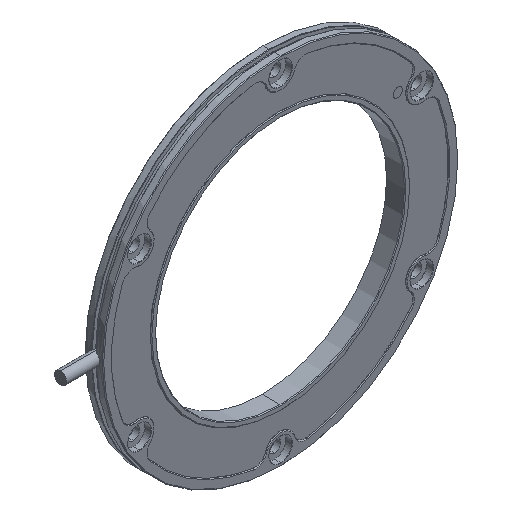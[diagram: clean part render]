
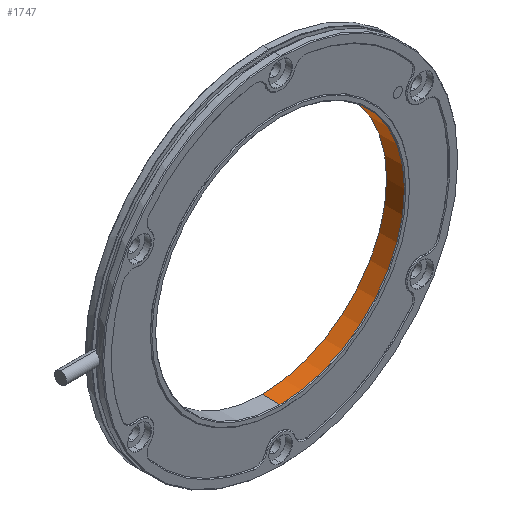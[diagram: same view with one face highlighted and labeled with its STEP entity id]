
A CAD part, isometric view. The second image highlights one B-rep face of the part: STEP entity #1747.
In plain terms, the highlighted cylindrical face has radius 33.6 mm (diameter 67.2 mm), a partial arc.
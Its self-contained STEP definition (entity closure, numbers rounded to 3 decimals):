
#157 = AXIS2_PLACEMENT_3D ( 'NONE', #1645, #10019, #1756 ) ;
#422 = EDGE_CURVE ( 'NONE', #7435, #4469, #7493, .T. ) ;
#866 = DIRECTION ( 'NONE',  ( 0., -1., 0. ) ) ;
#867 = DIRECTION ( 'NONE',  ( 0., -1., 0. ) ) ;
#880 = AXIS2_PLACEMENT_3D ( 'NONE', #4095, #10598, #3385 ) ;
#995 = CIRCLE ( 'NONE', #9515, 33.6 ) ;
#1455 = EDGE_CURVE ( 'NONE', #7435, #8784, #4848, .T. ) ;
#1645 = CARTESIAN_POINT ( 'NONE',  ( 0., 5., 0. ) ) ;
#1705 = CARTESIAN_POINT ( 'NONE',  ( 0., 5., 33.6 ) ) ;
#1740 = FACE_OUTER_BOUND ( 'NONE', #2892, .T. ) ;
#1747 = ADVANCED_FACE ( 'NONE', ( #1740 ), #3984, .F. ) ;
#1756 = DIRECTION ( 'NONE',  ( 0., 0., 1. ) ) ;
#2431 = ORIENTED_EDGE ( 'NONE', *, *, #422, .F. ) ;
#2892 = EDGE_LOOP ( 'NONE', ( #2431, #8794, #5443, #7562 ) ) ;
#2984 = VECTOR ( 'NONE', #7192, 1000. ) ;
#3166 = EDGE_CURVE ( 'NONE', #7299, #4469, #995, .T. ) ;
#3385 = DIRECTION ( 'NONE',  ( 0., 0., -1. ) ) ;
#3984 = CYLINDRICAL_SURFACE ( 'NONE', #880, 33.6 ) ;
#4095 = CARTESIAN_POINT ( 'NONE',  ( 0., 5., 0. ) ) ;
#4469 = VERTEX_POINT ( 'NONE', #9679 ) ;
#4537 = CARTESIAN_POINT ( 'NONE',  ( 0., 5., -33.6 ) ) ;
#4848 = CIRCLE ( 'NONE', #157, 33.6 ) ;
#5035 = CARTESIAN_POINT ( 'NONE',  ( 0., 5., 33.6 ) ) ;
#5308 = VECTOR ( 'NONE', #866, 1000. ) ;
#5443 = ORIENTED_EDGE ( 'NONE', *, *, #5666, .T. ) ;
#5666 = EDGE_CURVE ( 'NONE', #8784, #7299, #8897, .T. ) ;
#5947 = CARTESIAN_POINT ( 'NONE',  ( 0., 0.2, -33.6 ) ) ;
#6580 = CARTESIAN_POINT ( 'NONE',  ( 0., 0.2, 0. ) ) ;
#6951 = CARTESIAN_POINT ( 'NONE',  ( 0., 5., -33.6 ) ) ;
#7192 = DIRECTION ( 'NONE',  ( 0., -1., 0. ) ) ;
#7299 = VERTEX_POINT ( 'NONE', #5947 ) ;
#7435 = VERTEX_POINT ( 'NONE', #1705 ) ;
#7493 = LINE ( 'NONE', #5035, #5308 ) ;
#7562 = ORIENTED_EDGE ( 'NONE', *, *, #3166, .T. ) ;
#8784 = VERTEX_POINT ( 'NONE', #4537 ) ;
#8794 = ORIENTED_EDGE ( 'NONE', *, *, #1455, .T. ) ;
#8897 = LINE ( 'NONE', #6951, #2984 ) ;
#9515 = AXIS2_PLACEMENT_3D ( 'NONE', #6580, #867, #9980 ) ;
#9679 = CARTESIAN_POINT ( 'NONE',  ( 0., 0.2, 33.6 ) ) ;
#9980 = DIRECTION ( 'NONE',  ( 0., 0., 1. ) ) ;
#10019 = DIRECTION ( 'NONE',  ( 0., 1., 0. ) ) ;
#10598 = DIRECTION ( 'NONE',  ( 0., -1., 0. ) ) ;
